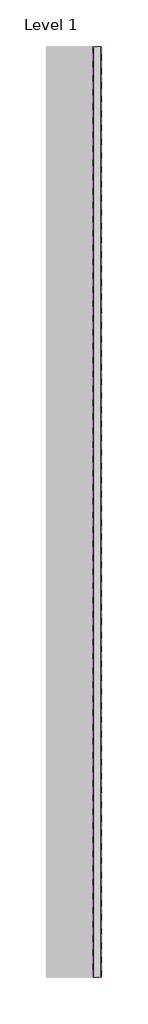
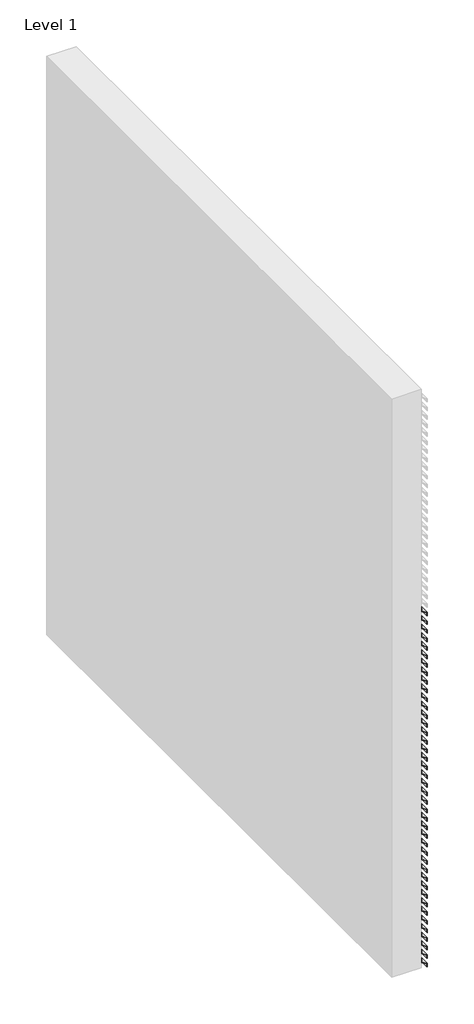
# One storey, part 61 of 69: 42 proxies.
"""IFC4 building model written with IfcOpenShell, lengths in millimetres."""

from ifc_helpers import new_model, si_unit, frame, origin, place, context, project, spatial, polyline, outline, extrude, element, save

model = new_model("IFC4")

# Units and contexts
model_context = context("Model", 3, world=origin())
ifc_project = project(units=[si_unit("LENGTHUNIT", "METRE", prefix="MILLI")], contexts=[model_context])

# Site, building, storey
site = spatial("IfcSite", under=ifc_project)
building = spatial("IfcBuilding", under=site)
storey = spatial("IfcBuildingStorey", under=building, Name="Level 1", Elevation=0.0)

# Proxies
placement = place(None, origin())
element("IfcBuildingElementProxy", 1, Name="Wall Sweeps", at=placement, inside=storey, context=model_context, shape_type="SweptSolid", body=[
    extrude(outline(polyline([(1374.6, 215155.4900207), (1385.6562577, 215136.3400207), (1398.6, 215136.3400207), (1398.6, 215135.0900207), (1384.9345698, 215135.0900207), (1373.8782281, 215154.2400207), (1361.8216933, 215154.2400207), (1361.1, 215155.4900207), (1374.6, 215155.4900207)])), frame((0.0, 39638.6636399, 0.0), z_axis=(0.0, 1.0, 0.0), x_axis=(0.0, 0.0, 1.0)), (0.0, 0.0, 1.0), 2200.0),
])
element("IfcBuildingElementProxy", 2, Name="Wall Sweeps", at=placement, inside=storey, context=model_context, shape_type="SweptSolid", body=[
    extrude(outline(polyline([(1341.3, 215155.4900207), (1352.3562577, 215136.3400207), (1365.3, 215136.3400207), (1365.3, 215135.0900207), (1351.6345698, 215135.0900207), (1340.5782281, 215154.2400207), (1328.5216933, 215154.2400207), (1327.8, 215155.4900207), (1341.3, 215155.4900207)])), frame((0.0, 39638.6636399, 0.0), z_axis=(0.0, 1.0, 0.0), x_axis=(0.0, 0.0, 1.0)), (0.0, 0.0, 1.0), 2200.0),
])
element("IfcBuildingElementProxy", 3, Name="Wall Sweeps", at=placement, inside=storey, context=model_context, shape_type="SweptSolid", body=[
    extrude(outline(polyline([(1308.0, 215155.4900207), (1319.0562577, 215136.3400207), (1332.0, 215136.3400207), (1332.0, 215135.0900207), (1318.3345698, 215135.0900207), (1307.2782281, 215154.2400207), (1295.2216933, 215154.2400207), (1294.5, 215155.4900207), (1308.0, 215155.4900207)])), frame((0.0, 39638.6636399, 0.0), z_axis=(0.0, 1.0, 0.0), x_axis=(0.0, 0.0, 1.0)), (0.0, 0.0, 1.0), 2200.0),
])
element("IfcBuildingElementProxy", 4, Name="Wall Sweeps", at=placement, inside=storey, context=model_context, shape_type="SweptSolid", body=[
    extrude(outline(polyline([(1274.7, 215155.4900207), (1285.7562577, 215136.3400207), (1298.7, 215136.3400207), (1298.7, 215135.0900207), (1285.0345698, 215135.0900207), (1273.9782281, 215154.2400207), (1261.9216933, 215154.2400207), (1261.2, 215155.4900207), (1274.7, 215155.4900207)])), frame((0.0, 39638.6636399, 0.0), z_axis=(0.0, 1.0, 0.0), x_axis=(0.0, 0.0, 1.0)), (0.0, 0.0, 1.0), 2200.0),
])
element("IfcBuildingElementProxy", 5, Name="Wall Sweeps", at=placement, inside=storey, context=model_context, shape_type="SweptSolid", body=[
    extrude(outline(polyline([(1241.4, 215155.4900207), (1252.4562577, 215136.3400207), (1265.4, 215136.3400207), (1265.4, 215135.0900207), (1251.7345698, 215135.0900207), (1240.6782281, 215154.2400207), (1228.6216933, 215154.2400207), (1227.9, 215155.4900207), (1241.4, 215155.4900207)])), frame((0.0, 39638.6636399, 0.0), z_axis=(0.0, 1.0, 0.0), x_axis=(0.0, 0.0, 1.0)), (0.0, 0.0, 1.0), 2200.0),
])
element("IfcBuildingElementProxy", 6, Name="Wall Sweeps", at=placement, inside=storey, context=model_context, shape_type="SweptSolid", body=[
    extrude(outline(polyline([(1208.1, 215155.4900207), (1219.1562577, 215136.3400207), (1232.1, 215136.3400207), (1232.1, 215135.0900207), (1218.4345698, 215135.0900207), (1207.3782281, 215154.2400207), (1195.3216933, 215154.2400207), (1194.6, 215155.4900207), (1208.1, 215155.4900207)])), frame((0.0, 39638.6636399, 0.0), z_axis=(0.0, 1.0, 0.0), x_axis=(0.0, 0.0, 1.0)), (0.0, 0.0, 1.0), 2200.0),
])
element("IfcBuildingElementProxy", 7, Name="Wall Sweeps", at=placement, inside=storey, context=model_context, shape_type="SweptSolid", body=[
    extrude(outline(polyline([(1174.8, 215155.4900207), (1185.8562577, 215136.3400207), (1198.8, 215136.3400207), (1198.8, 215135.0900207), (1185.1345698, 215135.0900207), (1174.0782281, 215154.2400207), (1162.0216933, 215154.2400207), (1161.3, 215155.4900207), (1174.8, 215155.4900207)])), frame((0.0, 39638.6636399, 0.0), z_axis=(0.0, 1.0, 0.0), x_axis=(0.0, 0.0, 1.0)), (0.0, 0.0, 1.0), 2200.0),
])
element("IfcBuildingElementProxy", 8, Name="Wall Sweeps", at=placement, inside=storey, context=model_context, shape_type="SweptSolid", body=[
    extrude(outline(polyline([(1141.5, 215155.4900207), (1152.5562577, 215136.3400207), (1165.5, 215136.3400207), (1165.5, 215135.0900207), (1151.8345698, 215135.0900207), (1140.7782281, 215154.2400207), (1128.7216933, 215154.2400207), (1128.0, 215155.4900207), (1141.5, 215155.4900207)])), frame((0.0, 39638.6636399, 0.0), z_axis=(0.0, 1.0, 0.0), x_axis=(0.0, 0.0, 1.0)), (0.0, 0.0, 1.0), 2200.0),
])
element("IfcBuildingElementProxy", 9, Name="Wall Sweeps", at=placement, inside=storey, context=model_context, shape_type="SweptSolid", body=[
    extrude(outline(polyline([(1108.2, 215155.4900207), (1119.2562577, 215136.3400207), (1132.2, 215136.3400207), (1132.2, 215135.0900207), (1118.5345698, 215135.0900207), (1107.4782281, 215154.2400207), (1095.4216933, 215154.2400207), (1094.7, 215155.4900207), (1108.2, 215155.4900207)])), frame((0.0, 39638.6636399, 0.0), z_axis=(0.0, 1.0, 0.0), x_axis=(0.0, 0.0, 1.0)), (0.0, 0.0, 1.0), 2200.0),
])
element("IfcBuildingElementProxy", 10, Name="Wall Sweeps", at=placement, inside=storey, context=model_context, shape_type="SweptSolid", body=[
    extrude(outline(polyline([(1074.9, 215155.4900207), (1085.9562577, 215136.3400207), (1098.9, 215136.3400207), (1098.9, 215135.0900207), (1085.2345698, 215135.0900207), (1074.1782281, 215154.2400207), (1062.1216933, 215154.2400207), (1061.4, 215155.4900207), (1074.9, 215155.4900207)])), frame((0.0, 39638.6636399, 0.0), z_axis=(0.0, 1.0, 0.0), x_axis=(0.0, 0.0, 1.0)), (0.0, 0.0, 1.0), 2200.0),
])
element("IfcBuildingElementProxy", 11, Name="Wall Sweeps", at=placement, inside=storey, context=model_context, shape_type="SweptSolid", body=[
    extrude(outline(polyline([(1041.6, 215155.4900207), (1052.6562577, 215136.3400207), (1065.6, 215136.3400207), (1065.6, 215135.0900207), (1051.9345698, 215135.0900207), (1040.8782281, 215154.2400207), (1028.8216933, 215154.2400207), (1028.1, 215155.4900207), (1041.6, 215155.4900207)])), frame((0.0, 39638.6636399, 0.0), z_axis=(0.0, 1.0, 0.0), x_axis=(0.0, 0.0, 1.0)), (0.0, 0.0, 1.0), 2200.0),
])
element("IfcBuildingElementProxy", 12, Name="Wall Sweeps", at=placement, inside=storey, context=model_context, shape_type="SweptSolid", body=[
    extrude(outline(polyline([(1008.3, 215155.4900207), (1019.3562577, 215136.3400207), (1032.3, 215136.3400207), (1032.3, 215135.0900207), (1018.6345698, 215135.0900207), (1007.5782281, 215154.2400207), (995.5216933, 215154.2400207), (994.8, 215155.4900207), (1008.3, 215155.4900207)])), frame((0.0, 39638.6636399, 0.0), z_axis=(0.0, 1.0, 0.0), x_axis=(0.0, 0.0, 1.0)), (0.0, 0.0, 1.0), 2200.0),
])
element("IfcBuildingElementProxy", 13, Name="Wall Sweeps", at=placement, inside=storey, context=model_context, shape_type="SweptSolid", body=[
    extrude(outline(polyline([(975.0, 215155.4900207), (986.0562577, 215136.3400207), (999.0, 215136.3400207), (999.0, 215135.0900207), (985.3345698, 215135.0900207), (974.2782281, 215154.2400207), (962.2216933, 215154.2400207), (961.5, 215155.4900207), (975.0, 215155.4900207)])), frame((0.0, 39638.6636399, 0.0), z_axis=(0.0, 1.0, 0.0), x_axis=(0.0, 0.0, 1.0)), (0.0, 0.0, 1.0), 2200.0),
])
element("IfcBuildingElementProxy", 14, Name="Wall Sweeps", at=placement, inside=storey, context=model_context, shape_type="SweptSolid", body=[
    extrude(outline(polyline([(941.7, 215155.4900207), (952.7562577, 215136.3400207), (965.7, 215136.3400207), (965.7, 215135.0900207), (952.0345698, 215135.0900207), (940.9782281, 215154.2400207), (928.9216933, 215154.2400207), (928.2, 215155.4900207), (941.7, 215155.4900207)])), frame((0.0, 39638.6636399, 0.0), z_axis=(0.0, 1.0, 0.0), x_axis=(0.0, 0.0, 1.0)), (0.0, 0.0, 1.0), 2200.0),
])
element("IfcBuildingElementProxy", 15, Name="Wall Sweeps", at=placement, inside=storey, context=model_context, shape_type="SweptSolid", body=[
    extrude(outline(polyline([(908.4, 215155.4900207), (919.4562577, 215136.3400207), (932.4, 215136.3400207), (932.4, 215135.0900207), (918.7345698, 215135.0900207), (907.6782281, 215154.2400207), (895.6216933, 215154.2400207), (894.9, 215155.4900207), (908.4, 215155.4900207)])), frame((0.0, 39638.6636399, 0.0), z_axis=(0.0, 1.0, 0.0), x_axis=(0.0, 0.0, 1.0)), (0.0, 0.0, 1.0), 2200.0),
])
element("IfcBuildingElementProxy", 16, Name="Wall Sweeps", at=placement, inside=storey, context=model_context, shape_type="SweptSolid", body=[
    extrude(outline(polyline([(875.1, 215155.4900207), (886.1562577, 215136.3400207), (899.1, 215136.3400207), (899.1, 215135.0900207), (885.4345698, 215135.0900207), (874.3782281, 215154.2400207), (862.3216933, 215154.2400207), (861.6, 215155.4900207), (875.1, 215155.4900207)])), frame((0.0, 39638.6636399, 0.0), z_axis=(0.0, 1.0, 0.0), x_axis=(0.0, 0.0, 1.0)), (0.0, 0.0, 1.0), 2200.0),
])
element("IfcBuildingElementProxy", 17, Name="Wall Sweeps", at=placement, inside=storey, context=model_context, shape_type="SweptSolid", body=[
    extrude(outline(polyline([(841.8, 215155.4900207), (852.8562577, 215136.3400207), (865.8, 215136.3400207), (865.8, 215135.0900207), (852.1345698, 215135.0900207), (841.0782281, 215154.2400207), (829.0216933, 215154.2400207), (828.3, 215155.4900207), (841.8, 215155.4900207)])), frame((0.0, 39638.6636399, 0.0), z_axis=(0.0, 1.0, 0.0), x_axis=(0.0, 0.0, 1.0)), (0.0, 0.0, 1.0), 2200.0),
])
element("IfcBuildingElementProxy", 18, Name="Wall Sweeps", at=placement, inside=storey, context=model_context, shape_type="SweptSolid", body=[
    extrude(outline(polyline([(808.5, 215155.4900207), (819.5562577, 215136.3400207), (832.5, 215136.3400207), (832.5, 215135.0900207), (818.8345698, 215135.0900207), (807.7782281, 215154.2400207), (795.7216933, 215154.2400207), (795.0, 215155.4900207), (808.5, 215155.4900207)])), frame((0.0, 39638.6636399, 0.0), z_axis=(0.0, 1.0, 0.0), x_axis=(0.0, 0.0, 1.0)), (0.0, 0.0, 1.0), 2200.0),
])
element("IfcBuildingElementProxy", 19, Name="Wall Sweeps", at=placement, inside=storey, context=model_context, shape_type="SweptSolid", body=[
    extrude(outline(polyline([(775.2, 215155.4900207), (786.2562577, 215136.3400207), (799.2, 215136.3400207), (799.2, 215135.0900207), (785.5345698, 215135.0900207), (774.4782281, 215154.2400207), (762.4216933, 215154.2400207), (761.7, 215155.4900207), (775.2, 215155.4900207)])), frame((0.0, 39638.6636399, 0.0), z_axis=(0.0, 1.0, 0.0), x_axis=(0.0, 0.0, 1.0)), (0.0, 0.0, 1.0), 2200.0),
])
element("IfcBuildingElementProxy", 20, Name="Wall Sweeps", at=placement, inside=storey, context=model_context, shape_type="SweptSolid", body=[
    extrude(outline(polyline([(741.9, 215155.4900207), (752.9562577, 215136.3400207), (765.9, 215136.3400207), (765.9, 215135.0900207), (752.2345698, 215135.0900207), (741.1782281, 215154.2400207), (729.1216933, 215154.2400207), (728.4, 215155.4900207), (741.9, 215155.4900207)])), frame((0.0, 39638.6636399, 0.0), z_axis=(0.0, 1.0, 0.0), x_axis=(0.0, 0.0, 1.0)), (0.0, 0.0, 1.0), 2200.0),
])
element("IfcBuildingElementProxy", 21, Name="Wall Sweeps", at=placement, inside=storey, context=model_context, shape_type="SweptSolid", body=[
    extrude(outline(polyline([(708.6, 215155.4900207), (719.6562577, 215136.3400207), (732.6, 215136.3400207), (732.6, 215135.0900207), (718.9345698, 215135.0900207), (707.8782281, 215154.2400207), (695.8216933, 215154.2400207), (695.1, 215155.4900207), (708.6, 215155.4900207)])), frame((0.0, 39638.6636399, 0.0), z_axis=(0.0, 1.0, 0.0), x_axis=(0.0, 0.0, 1.0)), (0.0, 0.0, 1.0), 2200.0),
])
element("IfcBuildingElementProxy", 22, Name="Wall Sweeps", at=placement, inside=storey, context=model_context, shape_type="SweptSolid", body=[
    extrude(outline(polyline([(675.3, 215155.4900207), (686.3562577, 215136.3400207), (699.3, 215136.3400207), (699.3, 215135.0900207), (685.6345698, 215135.0900207), (674.5782281, 215154.2400207), (662.5216933, 215154.2400207), (661.8, 215155.4900207), (675.3, 215155.4900207)])), frame((0.0, 39638.6636399, 0.0), z_axis=(0.0, 1.0, 0.0), x_axis=(0.0, 0.0, 1.0)), (0.0, 0.0, 1.0), 2200.0),
])
element("IfcBuildingElementProxy", 23, Name="Wall Sweeps", at=placement, inside=storey, context=model_context, shape_type="SweptSolid", body=[
    extrude(outline(polyline([(642.0, 215155.4900207), (653.0562577, 215136.3400207), (666.0, 215136.3400207), (666.0, 215135.0900207), (652.3345698, 215135.0900207), (641.2782281, 215154.2400207), (629.2216933, 215154.2400207), (628.5, 215155.4900207), (642.0, 215155.4900207)])), frame((0.0, 39638.6636399, 0.0), z_axis=(0.0, 1.0, 0.0), x_axis=(0.0, 0.0, 1.0)), (0.0, 0.0, 1.0), 2200.0),
])
element("IfcBuildingElementProxy", 24, Name="Wall Sweeps", at=placement, inside=storey, context=model_context, shape_type="SweptSolid", body=[
    extrude(outline(polyline([(608.7, 215155.4900207), (619.7562577, 215136.3400207), (632.7, 215136.3400207), (632.7, 215135.0900207), (619.0345698, 215135.0900207), (607.9782281, 215154.2400207), (595.9216933, 215154.2400207), (595.2, 215155.4900207), (608.7, 215155.4900207)])), frame((0.0, 39638.6636399, 0.0), z_axis=(0.0, 1.0, 0.0), x_axis=(0.0, 0.0, 1.0)), (0.0, 0.0, 1.0), 2200.0),
])
element("IfcBuildingElementProxy", 25, Name="Wall Sweeps", at=placement, inside=storey, context=model_context, shape_type="SweptSolid", body=[
    extrude(outline(polyline([(575.4, 215155.4900207), (586.4562577, 215136.3400207), (599.4, 215136.3400207), (599.4, 215135.0900207), (585.7345698, 215135.0900207), (574.6782281, 215154.2400207), (562.6216933, 215154.2400207), (561.9, 215155.4900207), (575.4, 215155.4900207)])), frame((0.0, 39638.6636399, 0.0), z_axis=(0.0, 1.0, 0.0), x_axis=(0.0, 0.0, 1.0)), (0.0, 0.0, 1.0), 2200.0),
])
element("IfcBuildingElementProxy", 26, Name="Wall Sweeps", at=placement, inside=storey, context=model_context, shape_type="SweptSolid", body=[
    extrude(outline(polyline([(542.1, 215155.4900207), (553.1562577, 215136.3400207), (566.1, 215136.3400207), (566.1, 215135.0900207), (552.4345698, 215135.0900207), (541.3782281, 215154.2400207), (529.3216933, 215154.2400207), (528.6, 215155.4900207), (542.1, 215155.4900207)])), frame((0.0, 39638.6636399, 0.0), z_axis=(0.0, 1.0, 0.0), x_axis=(0.0, 0.0, 1.0)), (0.0, 0.0, 1.0), 2200.0),
])
element("IfcBuildingElementProxy", 27, Name="Wall Sweeps", at=placement, inside=storey, context=model_context, shape_type="SweptSolid", body=[
    extrude(outline(polyline([(508.8, 215155.4900207), (519.8562577, 215136.3400207), (532.8, 215136.3400207), (532.8, 215135.0900207), (519.1345698, 215135.0900207), (508.0782281, 215154.2400207), (496.0216933, 215154.2400207), (495.3, 215155.4900207), (508.8, 215155.4900207)])), frame((0.0, 39638.6636399, 0.0), z_axis=(0.0, 1.0, 0.0), x_axis=(0.0, 0.0, 1.0)), (0.0, 0.0, 1.0), 2200.0),
])
element("IfcBuildingElementProxy", 28, Name="Wall Sweeps", at=placement, inside=storey, context=model_context, shape_type="SweptSolid", body=[
    extrude(outline(polyline([(475.5, 215155.4900207), (486.5562577, 215136.3400207), (499.5, 215136.3400207), (499.5, 215135.0900207), (485.8345698, 215135.0900207), (474.7782281, 215154.2400207), (462.7216933, 215154.2400207), (462.0, 215155.4900207), (475.5, 215155.4900207)])), frame((0.0, 39638.6636399, 0.0), z_axis=(0.0, 1.0, 0.0), x_axis=(0.0, 0.0, 1.0)), (0.0, 0.0, 1.0), 2200.0),
])
element("IfcBuildingElementProxy", 29, Name="Wall Sweeps", at=placement, inside=storey, context=model_context, shape_type="SweptSolid", body=[
    extrude(outline(polyline([(442.2, 215155.4900207), (453.2562577, 215136.3400207), (466.2, 215136.3400207), (466.2, 215135.0900207), (452.5345698, 215135.0900207), (441.4782281, 215154.2400207), (429.4216933, 215154.2400207), (428.7, 215155.4900207), (442.2, 215155.4900207)])), frame((0.0, 39638.6636399, 0.0), z_axis=(0.0, 1.0, 0.0), x_axis=(0.0, 0.0, 1.0)), (0.0, 0.0, 1.0), 2200.0),
])
element("IfcBuildingElementProxy", 30, Name="Wall Sweeps", at=placement, inside=storey, context=model_context, shape_type="SweptSolid", body=[
    extrude(outline(polyline([(408.9, 215155.4900207), (419.9562577, 215136.3400207), (432.9, 215136.3400207), (432.9, 215135.0900207), (419.2345698, 215135.0900207), (408.1782281, 215154.2400207), (396.1216933, 215154.2400207), (395.4, 215155.4900207), (408.9, 215155.4900207)])), frame((0.0, 39638.6636399, 0.0), z_axis=(0.0, 1.0, 0.0), x_axis=(0.0, 0.0, 1.0)), (0.0, 0.0, 1.0), 2200.0),
])
element("IfcBuildingElementProxy", 31, Name="Wall Sweeps", at=placement, inside=storey, context=model_context, shape_type="SweptSolid", body=[
    extrude(outline(polyline([(375.6, 215155.4900207), (386.6562577, 215136.3400207), (399.6, 215136.3400207), (399.6, 215135.0900207), (385.9345698, 215135.0900207), (374.8782281, 215154.2400207), (362.8216933, 215154.2400207), (362.1, 215155.4900207), (375.6, 215155.4900207)])), frame((0.0, 39638.6636399, 0.0), z_axis=(0.0, 1.0, 0.0), x_axis=(0.0, 0.0, 1.0)), (0.0, 0.0, 1.0), 2200.0),
])
element("IfcBuildingElementProxy", 32, Name="Wall Sweeps", at=placement, inside=storey, context=model_context, shape_type="SweptSolid", body=[
    extrude(outline(polyline([(342.3, 215155.4900207), (353.3562577, 215136.3400207), (366.3, 215136.3400207), (366.3, 215135.0900207), (352.6345698, 215135.0900207), (341.5782281, 215154.2400207), (329.5216933, 215154.2400207), (328.8, 215155.4900207), (342.3, 215155.4900207)])), frame((0.0, 39638.6636399, 0.0), z_axis=(0.0, 1.0, 0.0), x_axis=(0.0, 0.0, 1.0)), (0.0, 0.0, 1.0), 2200.0),
])
element("IfcBuildingElementProxy", 33, Name="Wall Sweeps", at=placement, inside=storey, context=model_context, shape_type="SweptSolid", body=[
    extrude(outline(polyline([(309.0, 215155.4900207), (320.0562577, 215136.3400207), (333.0, 215136.3400207), (333.0, 215135.0900207), (319.3345698, 215135.0900207), (308.2782281, 215154.2400207), (296.2216933, 215154.2400207), (295.5, 215155.4900207), (309.0, 215155.4900207)])), frame((0.0, 39638.6636399, 0.0), z_axis=(0.0, 1.0, 0.0), x_axis=(0.0, 0.0, 1.0)), (0.0, 0.0, 1.0), 2200.0),
])
element("IfcBuildingElementProxy", 34, Name="Wall Sweeps", at=placement, inside=storey, context=model_context, shape_type="SweptSolid", body=[
    extrude(outline(polyline([(275.7, 215155.4900207), (286.7562577, 215136.3400207), (299.7, 215136.3400207), (299.7, 215135.0900207), (286.0345698, 215135.0900207), (274.9782281, 215154.2400207), (262.9216933, 215154.2400207), (262.2, 215155.4900207), (275.7, 215155.4900207)])), frame((0.0, 39638.6636399, 0.0), z_axis=(0.0, 1.0, 0.0), x_axis=(0.0, 0.0, 1.0)), (0.0, 0.0, 1.0), 2200.0),
])
element("IfcBuildingElementProxy", 35, Name="Wall Sweeps", at=placement, inside=storey, context=model_context, shape_type="SweptSolid", body=[
    extrude(outline(polyline([(242.4, 215155.4900207), (253.4562577, 215136.3400207), (266.4, 215136.3400207), (266.4, 215135.0900207), (252.7345698, 215135.0900207), (241.6782281, 215154.2400207), (229.6216933, 215154.2400207), (228.9, 215155.4900207), (242.4, 215155.4900207)])), frame((0.0, 39638.6636399, 0.0), z_axis=(0.0, 1.0, 0.0), x_axis=(0.0, 0.0, 1.0)), (0.0, 0.0, 1.0), 2200.0),
])
element("IfcBuildingElementProxy", 36, Name="Wall Sweeps", at=placement, inside=storey, context=model_context, shape_type="SweptSolid", body=[
    extrude(outline(polyline([(209.1, 215155.4900207), (220.1562577, 215136.3400207), (233.1, 215136.3400207), (233.1, 215135.0900207), (219.4345698, 215135.0900207), (208.3782281, 215154.2400207), (196.3216933, 215154.2400207), (195.6, 215155.4900207), (209.1, 215155.4900207)])), frame((0.0, 39638.6636399, 0.0), z_axis=(0.0, 1.0, 0.0), x_axis=(0.0, 0.0, 1.0)), (0.0, 0.0, 1.0), 2200.0),
])
element("IfcBuildingElementProxy", 37, Name="Wall Sweeps", at=placement, inside=storey, context=model_context, shape_type="SweptSolid", body=[
    extrude(outline(polyline([(175.8, 215155.4900207), (186.8562577, 215136.3400207), (199.8, 215136.3400207), (199.8, 215135.0900207), (186.1345698, 215135.0900207), (175.0782281, 215154.2400207), (163.0216933, 215154.2400207), (162.3, 215155.4900207), (175.8, 215155.4900207)])), frame((0.0, 39638.6636399, 0.0), z_axis=(0.0, 1.0, 0.0), x_axis=(0.0, 0.0, 1.0)), (0.0, 0.0, 1.0), 2200.0),
])
element("IfcBuildingElementProxy", 38, Name="Wall Sweeps", at=placement, inside=storey, context=model_context, shape_type="SweptSolid", body=[
    extrude(outline(polyline([(142.5, 215155.4900207), (153.5562577, 215136.3400207), (166.5, 215136.3400207), (166.5, 215135.0900207), (152.8345698, 215135.0900207), (141.7782281, 215154.2400207), (129.7216933, 215154.2400207), (129.0, 215155.4900207), (142.5, 215155.4900207)])), frame((0.0, 39638.6636399, 0.0), z_axis=(0.0, 1.0, 0.0), x_axis=(0.0, 0.0, 1.0)), (0.0, 0.0, 1.0), 2200.0),
])
element("IfcBuildingElementProxy", 39, Name="Wall Sweeps", at=placement, inside=storey, context=model_context, shape_type="SweptSolid", body=[
    extrude(outline(polyline([(109.2, 215155.4900207), (120.2562577, 215136.3400207), (133.2, 215136.3400207), (133.2, 215135.0900207), (119.5345698, 215135.0900207), (108.4782281, 215154.2400207), (96.4216933, 215154.2400207), (95.7, 215155.4900207), (109.2, 215155.4900207)])), frame((0.0, 39638.6636399, 0.0), z_axis=(0.0, 1.0, 0.0), x_axis=(0.0, 0.0, 1.0)), (0.0, 0.0, 1.0), 2200.0),
])
element("IfcBuildingElementProxy", 40, Name="Wall Sweeps", at=placement, inside=storey, context=model_context, shape_type="SweptSolid", body=[
    extrude(outline(polyline([(75.9, 215155.4900207), (86.9562577, 215136.3400207), (99.9, 215136.3400207), (99.9, 215135.0900207), (86.2345698, 215135.0900207), (75.1782281, 215154.2400207), (63.1216933, 215154.2400207), (62.4, 215155.4900207), (75.9, 215155.4900207)])), frame((0.0, 39638.6636399, 0.0), z_axis=(0.0, 1.0, 0.0), x_axis=(0.0, 0.0, 1.0)), (0.0, 0.0, 1.0), 2200.0),
])
element("IfcBuildingElementProxy", 41, Name="Wall Sweeps", at=placement, inside=storey, context=model_context, shape_type="SweptSolid", body=[
    extrude(outline(polyline([(42.6, 215155.4900207), (53.6562577, 215136.3400207), (66.6, 215136.3400207), (66.6, 215135.0900207), (52.9345698, 215135.0900207), (41.8782281, 215154.2400207), (29.8216933, 215154.2400207), (29.1, 215155.4900207), (42.6, 215155.4900207)])), frame((0.0, 39638.6636399, 0.0), z_axis=(0.0, 1.0, 0.0), x_axis=(0.0, 0.0, 1.0)), (0.0, 0.0, 1.0), 2200.0),
])
element("IfcBuildingElementProxy", 42, Name="Wall Sweeps", at=placement, inside=storey, context=model_context, shape_type="SweptSolid", body=[
    extrude(outline(polyline([(9.3, 215155.4900207), (20.3562577, 215136.3400207), (33.3, 215136.3400207), (33.3, 215135.0900207), (19.6345698, 215135.0900207), (8.5782281, 215154.2400207), (-3.4783067, 215154.2400207), (-4.2, 215155.4900207), (9.3, 215155.4900207)])), frame((0.0, 39638.6636399, 0.0), z_axis=(0.0, 1.0, 0.0), x_axis=(0.0, 0.0, 1.0)), (0.0, 0.0, 1.0), 2200.0),
])

save(model, "model.ifc")
